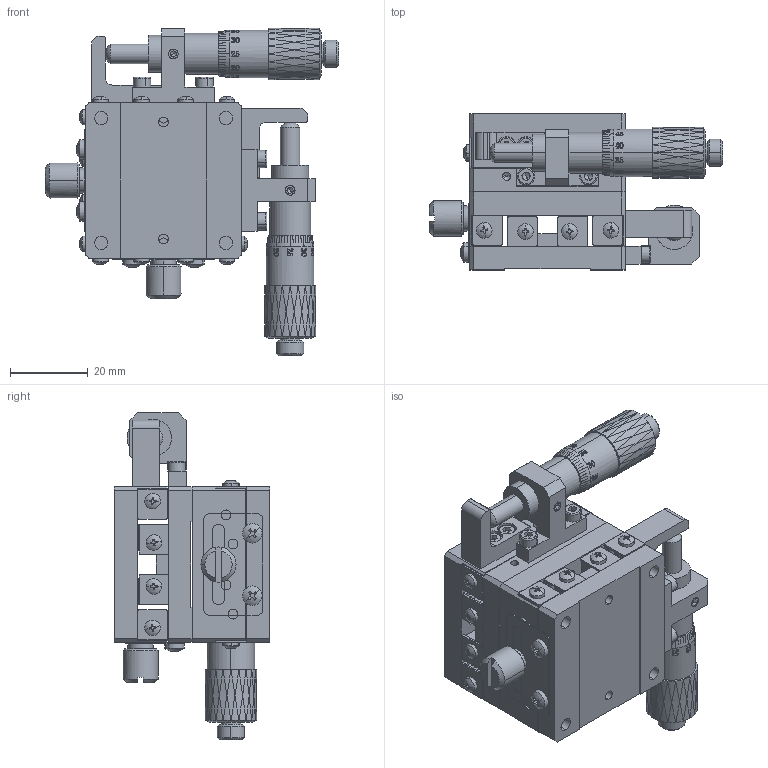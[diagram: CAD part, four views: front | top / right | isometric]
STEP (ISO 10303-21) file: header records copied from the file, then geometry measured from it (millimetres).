
FILE_DESCRIPTION (( 'STEP AP203' ), '1' );
FILE_NAME ('BGB40.STEP', '2023-08-26T08:23:09', ( 'China' ), ( 'Microsoft' ), 'SwSTEP 2.0', 'SolidWorks 2023', '' );
FILE_SCHEMA (( 'CONFIG_CONTROL_DESIGN' ));
Products named in the file (1): BGB40
Bounding box: 75.4 x 40 x 84.1 mm (x, y, z)
Volume: 68315.1 mm3; surface area: 50403.4 mm2
Topology: 80 solids, 80 shells, 3108 faces, 7758 edges, 4994 vertices
Faces by surface type: plane 984, cylinder 886, bspline 802, cone 376, sphere 44, torus 16
Entity records: 163121 total; most frequent: CARTESIAN_POINT 96691, ORIENTED_EDGE 15268, DIRECTION 10982, EDGE_CURVE 7634, VERTEX_POINT 4994, AXIS2_PLACEMENT_3D 4289, EDGE_LOOP 3560, FACE_OUTER_BOUND 3108
